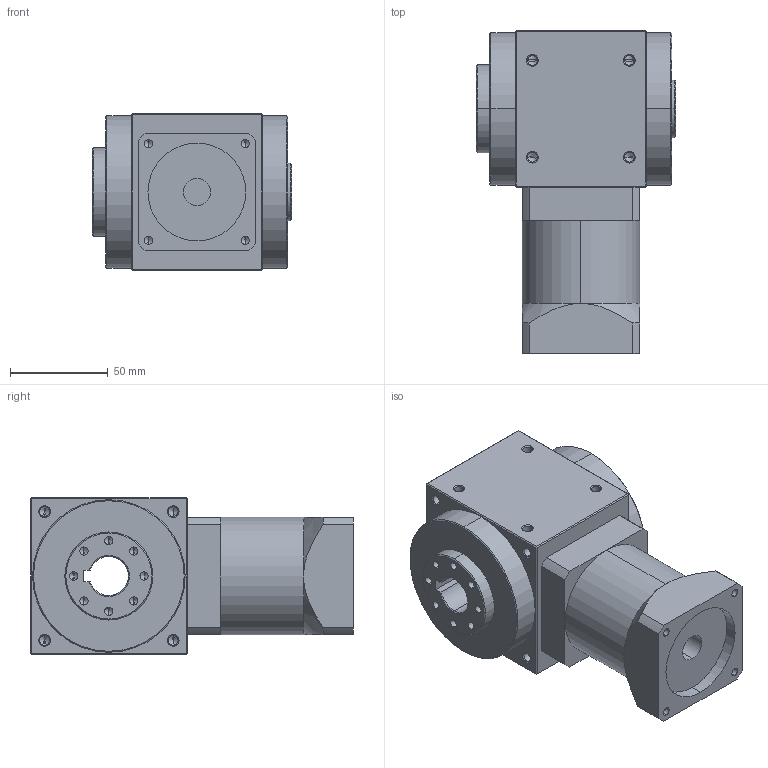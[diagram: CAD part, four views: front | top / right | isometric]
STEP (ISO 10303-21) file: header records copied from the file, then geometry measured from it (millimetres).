
FILE_DESCRIPTION (( 'STEP AP214' ), '1' );
FILE_NAME ('RXW080AS-L1-RFK-14-50-70-M5.STEP', '2020-06-02T02:07:34', ( 'User' ), ( 'Far123' ), 'SwSTEP 2.0', 'SolidWorks 2015', '' );
FILE_SCHEMA (( 'AUTOMOTIVE_DESIGN' ));
Length unit declared in the file: millimetre
Products named in the file (1): RXW080AS-L1-RFK-14-50-70-M5
Bounding box: 102 x 165 x 80 mm (x, y, z)
Volume: 776947.1 mm3; surface area: 74989 mm2
Topology: 1 solids, 1 shells, 267 faces, 614 edges, 332 vertices
Faces by surface type: cone 130, cylinder 89, plane 48
Entity records: 7938 total; most frequent: CARTESIAN_POINT 1410, DIRECTION 1326, ORIENTED_EDGE 1132, EDGE_CURVE 566, AXIS2_PLACEMENT_3D 520, VERTEX_POINT 332, EDGE_LOOP 308, VECTOR 286
